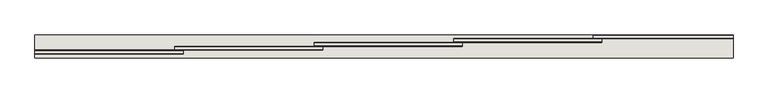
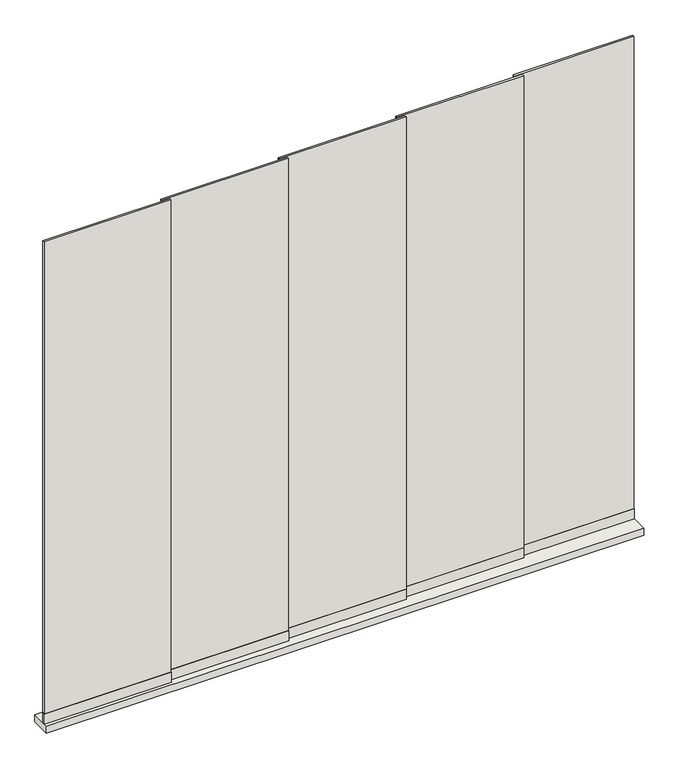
"""IFC4 building model written with IfcOpenShell, lengths in millimetres: wall geometry, Renson_Amani_Glass_Sliding_Panel : Renson_Amani_Glass_Sliding_Panel."""

from ifc_helpers import new_model, si_unit, frame, origin, origin_with_axes, place, context, project, spatial, polyline, outline, extrude, source, transform, mapped, element, save


def wall_1caff321(model_context):
    return source(origin(), model_context, "Body", "SweptSolid", [
        extrude(outline(polyline([(-949.0, -48.0), (-949.0, -64.0), (-1562.0, -64.0), (-1562.0, -48.0), (-949.0, -48.0)])), frame((0.0, 0.0, 35.0), z_axis=(0.0, 0.0, 1.0), x_axis=(1.0, 0.0, 0.0)), (0.0, 0.0, 1.0), 51.0),
        extrude(outline(polyline([(-1527.0, -64.0), (-1527.0, -80.0), (-2140.0, -80.0), (-2140.0, -64.0), (-1527.0, -64.0)])), frame((0.0, 0.0, 35.0), z_axis=(0.0, 0.0, 1.0), x_axis=(1.0, 0.0, 0.0)), (0.0, 0.0, 1.0), 51.0),
        extrude(outline(polyline([(-949.0, -51.0), (-949.0, -61.0), (-1562.0, -61.0), (-1562.0, -51.0), (-949.0, -51.0)])), frame((0.0, 0.0, 86.0), z_axis=(0.0, 0.0, 1.0), x_axis=(1.0, 0.0, 0.0)), (0.0, 0.0, 1.0), 2414.0),
        extrude(outline(polyline([(750.0, 0.0), (750.0, -96.0), (-2140.0, -96.0), (-2140.0, 0.0), (750.0, 0.0)])), origin_with_axes(), (0.0, 0.0, 1.0), 35.0),
        extrude(outline(polyline([(750.0, -3.0), (750.0, -13.0), (172.0, -13.0), (172.0, -3.0), (750.0, -3.0)])), frame((0.0, 0.0, 86.0), z_axis=(0.0, 0.0, 1.0), x_axis=(1.0, 0.0, 0.0)), (0.0, 0.0, 1.0), 2414.0),
        extrude(outline(polyline([(207.0, -19.0), (207.0, -29.0), (-406.0, -29.0), (-406.0, -19.0), (207.0, -19.0)])), frame((0.0, 0.0, 86.0), z_axis=(0.0, 0.0, 1.0), x_axis=(1.0, 0.0, 0.0)), (0.0, 0.0, 1.0), 2414.0),
        extrude(outline(polyline([(-1527.0, -67.0), (-1527.0, -77.0), (-2140.0, -77.0), (-2140.0, -67.0), (-1527.0, -67.0)])), frame((0.0, 0.0, 86.0), z_axis=(0.0, 0.0, 1.0), x_axis=(1.0, 0.0, 0.0)), (0.0, 0.0, 1.0), 2414.0),
        extrude(outline(polyline([(-371.0, -35.0), (-371.0, -45.0), (-984.0, -45.0), (-984.0, -35.0), (-371.0, -35.0)])), frame((0.0, 0.0, 86.0), z_axis=(0.0, 0.0, 1.0), x_axis=(1.0, 0.0, 0.0)), (0.0, 0.0, 1.0), 2414.0),
        extrude(outline(polyline([(750.0, 0.0), (750.0, -16.0), (172.0, -16.0), (172.0, 0.0), (750.0, 0.0)])), frame((0.0, 0.0, 35.0), z_axis=(0.0, 0.0, 1.0), x_axis=(1.0, 0.0, 0.0)), (0.0, 0.0, 1.0), 51.0),
        extrude(outline(polyline([(207.0, -16.0), (207.0, -32.0), (-406.0, -32.0), (-406.0, -16.0), (207.0, -16.0)])), frame((0.0, 0.0, 35.0), z_axis=(0.0, 0.0, 1.0), x_axis=(1.0, 0.0, 0.0)), (0.0, 0.0, 1.0), 51.0),
        extrude(outline(polyline([(-371.0, -32.0), (-371.0, -48.0), (-984.0, -48.0), (-984.0, -32.0), (-371.0, -32.0)])), frame((0.0, 0.0, 35.0), z_axis=(0.0, 0.0, 1.0), x_axis=(1.0, 0.0, 0.0)), (0.0, 0.0, 1.0), 51.0),
    ])


if __name__ == "__main__":
    model = new_model("IFC4")
    model_context = context("Model", 3, world=origin())
    ifc_project = project(units=[si_unit("LENGTHUNIT", "METRE", prefix="MILLI")], contexts=[model_context])
    site = spatial("IfcSite", under=ifc_project)
    building = spatial("IfcBuilding", under=site)
    placement = place(None, origin())
    wall_shape = wall_1caff321(model_context)
    element("IfcWall", 1, ObjectType="Renson_Amani_Glass_Sliding_Panel : Renson_Amani_Glass_Sliding_Panel", at=placement, inside=building, context=model_context, shape_type="MappedRepresentation", body=[
        mapped(wall_shape, transform((0.0, 0.0, 0.0), x_axis=(1.0, 0.0, 0.0), y_axis=(0.0, 1.0, 0.0), z_axis=(0.0, 0.0, 1.0))),
    ])
    save(model, "model.ifc")
